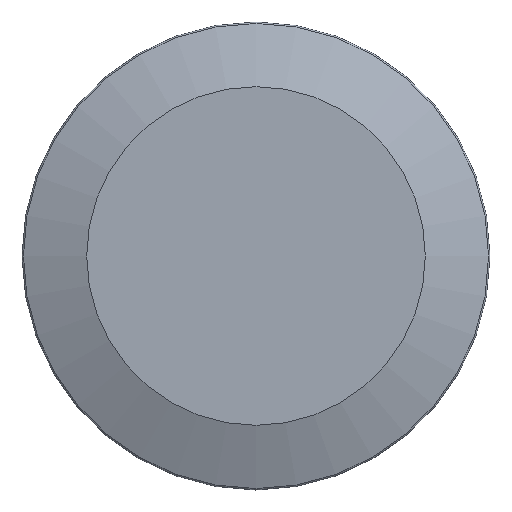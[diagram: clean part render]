
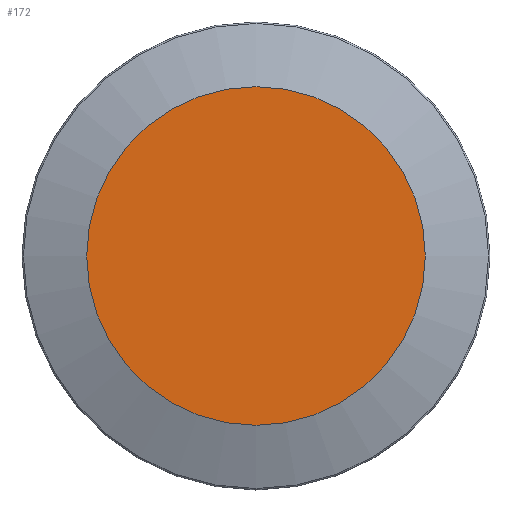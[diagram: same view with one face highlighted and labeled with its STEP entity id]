
A CAD part, left-side view. The second image highlights one B-rep face of the part: STEP entity #172.
In plain terms, the highlighted planar face has unit normal (-1, 0, 0).
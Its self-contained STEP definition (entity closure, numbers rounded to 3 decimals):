
#17=PLANE('',#223);
#40=FACE_OUTER_BOUND('',#52,.T.);
#52=EDGE_LOOP('',(#145));
#64=CIRCLE('',#211,60.421);
#78=VERTEX_POINT('',#310);
#95=EDGE_CURVE('',#78,#78,#64,.T.);
#145=ORIENTED_EDGE('',*,*,#95,.T.);
#172=ADVANCED_FACE('',(#40),#17,.F.);
#211=AXIS2_PLACEMENT_3D('',#312,#257,#258);
#223=AXIS2_PLACEMENT_3D('',#331,#284,#285);
#257=DIRECTION('center_axis',(-1.,0.,0.));
#258=DIRECTION('ref_axis',(0.,-1.,0.));
#284=DIRECTION('center_axis',(1.,0.,0.));
#285=DIRECTION('ref_axis',(0.,1.,0.));
#310=CARTESIAN_POINT('',(-62.246,-30.455,0.));
#312=CARTESIAN_POINT('Origin',(-62.246,29.966,0.));
#331=CARTESIAN_POINT('Origin',(-62.246,90.387,0.));
